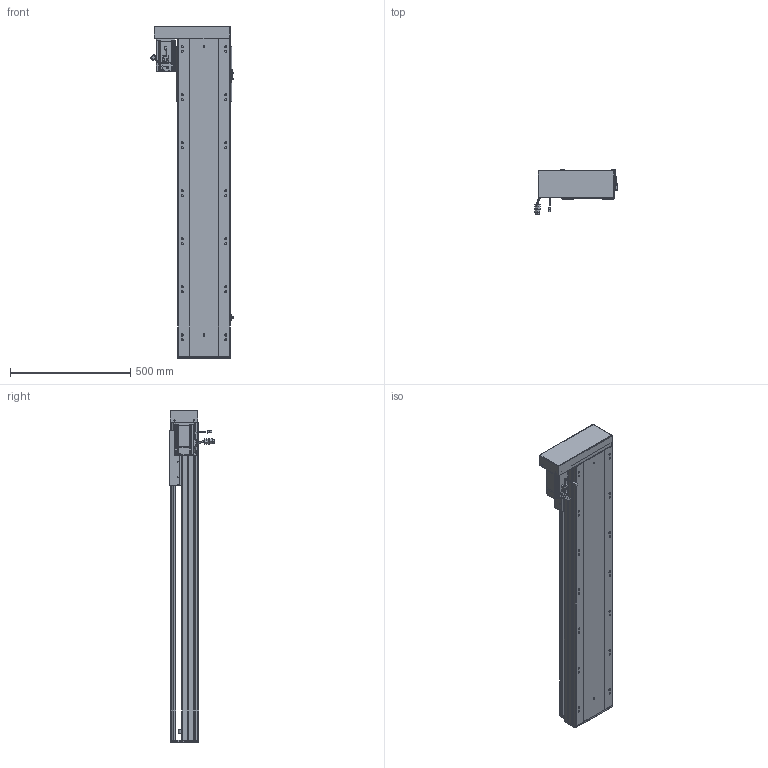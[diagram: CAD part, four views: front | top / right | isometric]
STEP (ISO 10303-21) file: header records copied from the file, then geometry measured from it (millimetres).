
FILE_DESCRIPTION (( 'STEP AP203' ), '1' );
FILE_NAME ('RY220-L2525-300-LK.SLDASM_1000.step', '2022-07-04T01:46:58', ( '' ), ( '' ), 'SwSTEP 2.0', 'SolidWorks 2016', '' );
FILE_SCHEMA (( 'CONFIG_CONTROL_DESIGN' ));
Length unit declared in the file: millimetre
Products named in the file (12): RY220蛌殏菁釱-300_1000; RY220-俋离672覜茼んえ; RY220左右折电机安装板; 覜茼ん672; RY220-300-蛌殏奻裔啣_1000; 滅袉蝶18-10; RY220酘衵殏萇儂欶; RY220半封闭25-32螺母铝滑块; 怢湛750W_ECMA-CX0807ES; RY220綴裔啣; 滅袉蝶18-15; RY220-L2525-300-LK.SLDASM_1000
Assembly tree (15 placements, depth 2):
  RY220-L2525-300-LK.SLDASM_1000
    RY220蛌殏菁釱-300_1000
    RY220-300-蛌殏奻裔啣_1000
    怢湛750W_ECMA-CX0807ES
    滅袉蝶18-10  x2
    RY220-俋离672覜茼んえ
    覜茼ん672  x3
    RY220綴裔啣
    RY220半封闭25-32螺母铝滑块
    滅袉蝶18-15  x2
    RY220左右折电机安装板
    RY220酘衵殏萇儂欶
Bounding box: 347.44 x 189.27 x 1382 mm (x, y, z)
Volume: 11563225.9 mm3; surface area: 3376605.6 mm2
Topology: 16 solids, 16 shells, 2139 faces, 5900 edges, 3735 vertices
Faces by surface type: cylinder 959, plane 896, cone 214, bspline 44, sphere 16, torus 10
Entity records: 70605 total; most frequent: CARTESIAN_POINT 20537, ORIENTED_EDGE 10400, DIRECTION 9756, EDGE_CURVE 5200, AXIS2_PLACEMENT_3D 3421, VERTEX_POINT 3391, VECTOR 2914, LINE 2914
